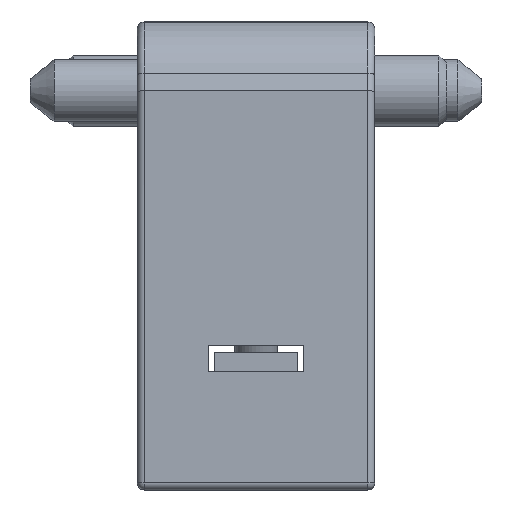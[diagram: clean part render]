
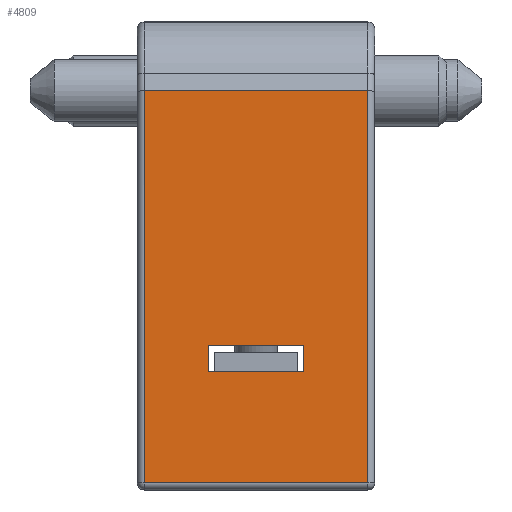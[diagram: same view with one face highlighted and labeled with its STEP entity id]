
A CAD part, front view. The second image highlights one B-rep face of the part: STEP entity #4809.
In plain terms, the highlighted planar face has unit normal (0, -1, 0).
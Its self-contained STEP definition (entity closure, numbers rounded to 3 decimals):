
#3501=CARTESIAN_POINT('',(-2.0,-25.0,-3.9));
#3502=VERTEX_POINT('',#3501);
#3509=CARTESIAN_POINT('',(-2.0,-25.0,-5.0));
#3510=VERTEX_POINT('',#3509);
#3511=CARTESIAN_POINT('',(-2.0,-25.0,-5.0));
#3512=DIRECTION('',(0.0,0.0,1.0));
#3513=VECTOR('',#3512,1.1);
#3514=LINE('',#3511,#3513);
#3515=EDGE_CURVE('',#3510,#3502,#3514,.T.);
#3533=CARTESIAN_POINT('',(2.,-25.0,-5.0));
#3534=VERTEX_POINT('',#3533);
#3535=CARTESIAN_POINT('',(2.,-25.0,-5.0));
#3536=DIRECTION('',(-1.0,0.0,0.0));
#3537=VECTOR('',#3536,4.0);
#3538=LINE('',#3535,#3537);
#3539=EDGE_CURVE('',#3534,#3510,#3538,.T.);
#3561=CARTESIAN_POINT('',(2.,-25.0,-3.9));
#3562=VERTEX_POINT('',#3561);
#3563=CARTESIAN_POINT('',(2.,-25.0,-3.9));
#3564=DIRECTION('',(0.0,0.0,-1.0));
#3565=VECTOR('',#3564,1.1);
#3566=LINE('',#3563,#3565);
#3567=EDGE_CURVE('',#3562,#3534,#3566,.T.);
#3585=CARTESIAN_POINT('',(-2.0,-25.0,-3.9));
#3586=DIRECTION('',(1.0,0.0,0.0));
#3587=VECTOR('',#3586,4.0);
#3588=LINE('',#3585,#3587);
#3589=EDGE_CURVE('',#3502,#3562,#3588,.T.);
#4532=CARTESIAN_POINT('',(4.7,-25.0,-9.7));
#4533=VERTEX_POINT('',#4532);
#4549=CARTESIAN_POINT('',(4.7,-25.0,6.8));
#4550=VERTEX_POINT('',#4549);
#4558=CARTESIAN_POINT('',(4.7,-25.0,6.8));
#4559=DIRECTION('',(0.0,0.0,-1.0));
#4560=VECTOR('',#4559,16.5);
#4561=LINE('',#4558,#4560);
#4562=EDGE_CURVE('',#4550,#4533,#4561,.T.);
#4761=CARTESIAN_POINT('',(-4.7,-25.0,-9.7));
#4762=VERTEX_POINT('',#4761);
#4763=CARTESIAN_POINT('',(4.7,-25.0,-9.7));
#4764=DIRECTION('',(-1.0,0.0,0.0));
#4765=VECTOR('',#4764,9.4);
#4766=LINE('',#4763,#4765);
#4767=EDGE_CURVE('',#4533,#4762,#4766,.T.);
#4780=CARTESIAN_POINT('',(0.0,-25.0,6.8));
#4781=DIRECTION('',(0.0,-1.0,0.0));
#4782=DIRECTION('',(0.0,0.0,1.0));
#4783=AXIS2_PLACEMENT_3D('',#4780,#4781,#4782);
#4784=PLANE('',#4783);
#4785=ORIENTED_EDGE('',*,*,#4562,.F.);
#4786=CARTESIAN_POINT('',(-4.7,-25.0,6.8));
#4787=VERTEX_POINT('',#4786);
#4788=CARTESIAN_POINT('',(4.7,-25.0,6.8));
#4789=DIRECTION('',(-1.0,0.0,0.0));
#4790=VECTOR('',#4789,9.4);
#4791=LINE('',#4788,#4790);
#4792=EDGE_CURVE('',#4550,#4787,#4791,.T.);
#4793=ORIENTED_EDGE('',*,*,#4792,.T.);
#4794=CARTESIAN_POINT('',(-4.7,-25.0,-9.7));
#4795=DIRECTION('',(0.0,0.0,1.0));
#4796=VECTOR('',#4795,16.5);
#4797=LINE('',#4794,#4796);
#4798=EDGE_CURVE('',#4762,#4787,#4797,.T.);
#4799=ORIENTED_EDGE('',*,*,#4798,.F.);
#4800=ORIENTED_EDGE('',*,*,#4767,.F.);
#4801=EDGE_LOOP('',(#4785,#4793,#4799,#4800));
#4802=FACE_OUTER_BOUND('',#4801,.T.);
#4803=ORIENTED_EDGE('',*,*,#3567,.T.);
#4804=ORIENTED_EDGE('',*,*,#3539,.T.);
#4805=ORIENTED_EDGE('',*,*,#3515,.T.);
#4806=ORIENTED_EDGE('',*,*,#3589,.T.);
#4807=EDGE_LOOP('',(#4803,#4804,#4805,#4806));
#4808=FACE_BOUND('',#4807,.T.);
#4809=ADVANCED_FACE('',(#4802,#4808),#4784,.T.);
